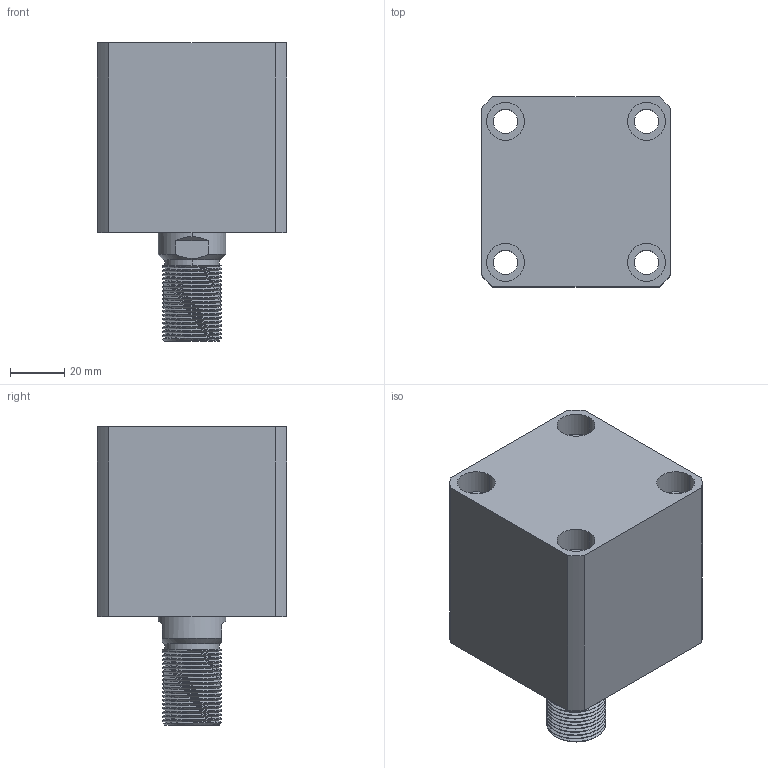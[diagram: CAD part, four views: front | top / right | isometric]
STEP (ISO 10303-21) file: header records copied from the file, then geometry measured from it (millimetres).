
FILE_DESCRIPTION (( 'STEP AP214' ), '1' );
FILE_NAME ('chtb-sd40x15w_asm.STEP', '2018-06-08T06:43:27', ( 'Windows' ), ( 'Microsoft' ), 'SwSTEP 2.0', 'SolidWorks 2015', '' );
FILE_SCHEMA (( 'AUTOMOTIVE_DESIGN' ));
Length unit declared in the file: millimetre
Products named in the file (4): CHTB-SD40X15WHSG; CHTB-SD40X15NBT; CHTB-SD40QG; chtb-sd40x15w_asm
Assembly tree (3 placements, depth 2):
  chtb-sd40x15w_asm
    CHTB-SD40QG
    CHTB-SD40X15NBT
    CHTB-SD40X15WHSG
Bounding box: 70 x 70 x 110 mm (x, y, z)
Volume: 314074.3 mm3; surface area: 69824.8 mm2
Topology: 3 solids, 4 shells, 203 faces, 533 edges, 355 vertices
Faces by surface type: cylinder 118, plane 40, bspline 16, cone 15, torus 14
Entity records: 13425 total; most frequent: CARTESIAN_POINT 8554, ORIENTED_EDGE 1054, DIRECTION 914, EDGE_CURVE 527, AXIS2_PLACEMENT_3D 380, VERTEX_POINT 355, EDGE_LOOP 240, ADVANCED_FACE 203
